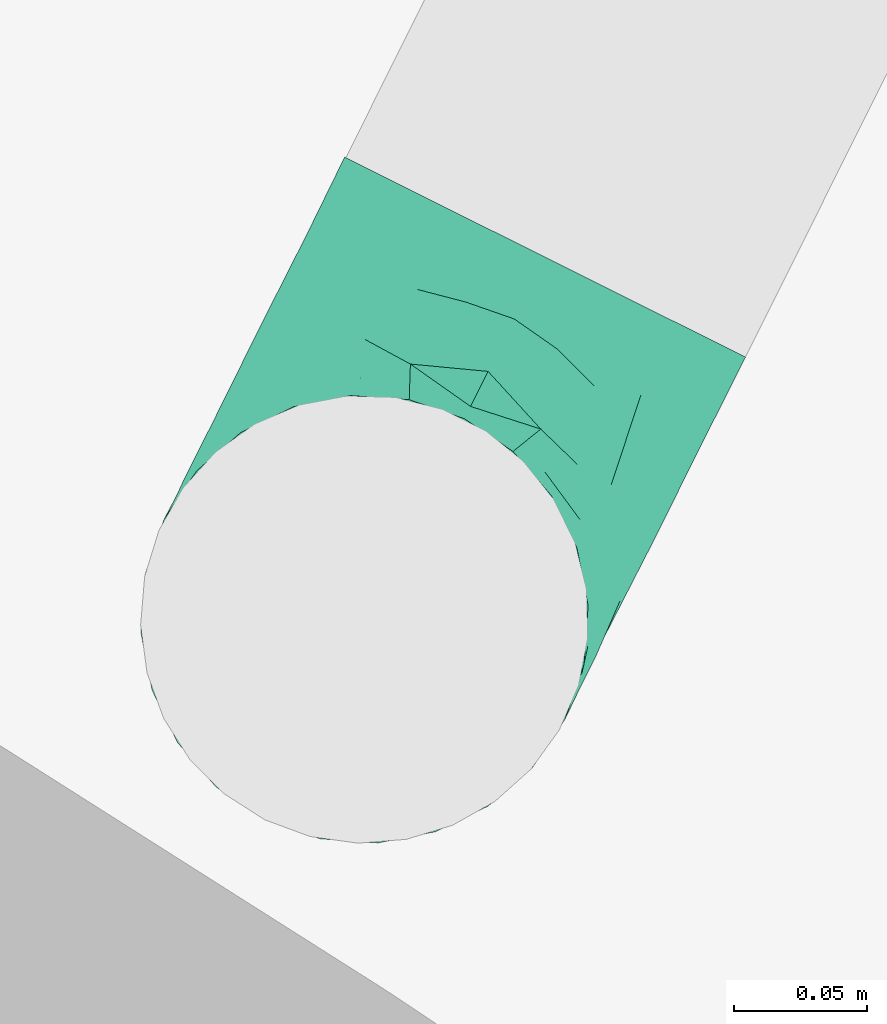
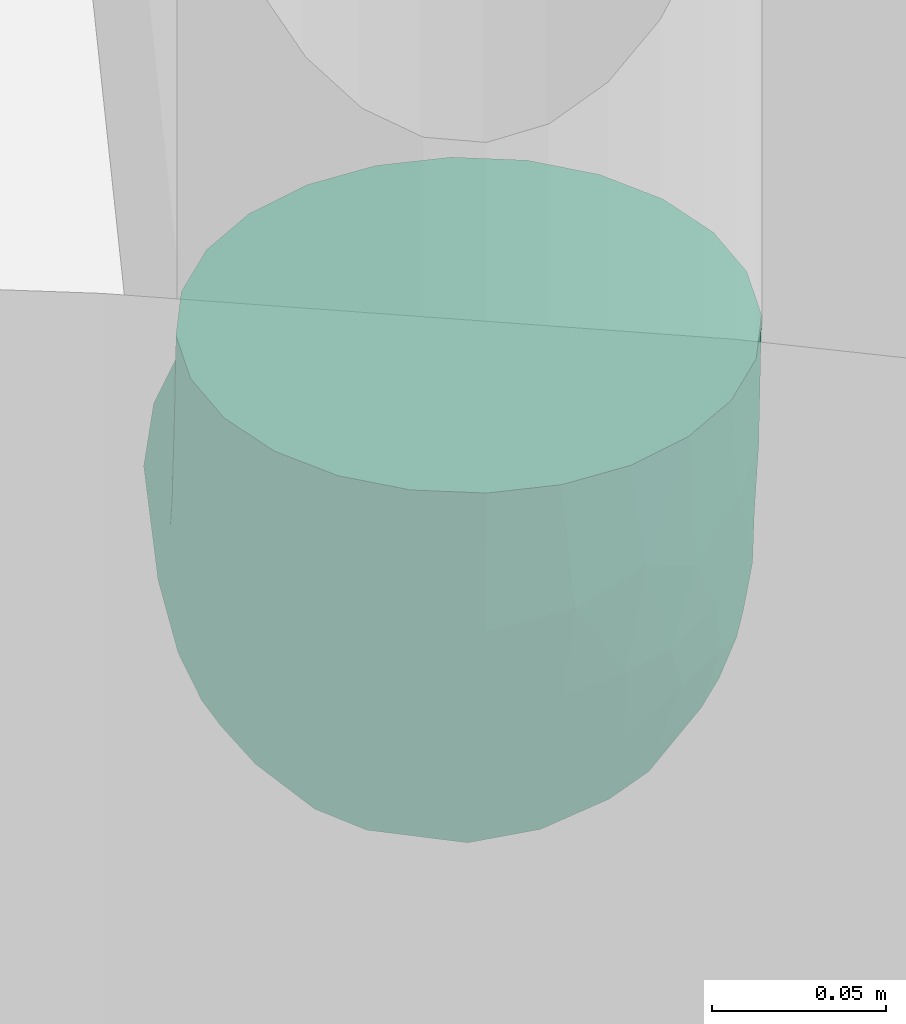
# One storey, part 24 of 47: 1 flow fitting.
"""IFC2X3 building model written with IfcOpenShell, lengths in metres."""

from ifc_helpers import new_model, entity, si_unit, converted_unit, derived_unit, direction, frame, origin, place, context, subcontext, project, spatial, faceted_brep, source, transform, mapped, type_object, type_shapes, element, save


model = new_model("IFC2X3")

# Units and contexts
model_context = context("Model", 3, precision=1e-05, world=origin(), true_north=direction((0.894925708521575, 0.446215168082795)))
context_of_model = context(None, 3, precision=1e-05, world=origin(), true_north=direction((0.894925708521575, 0.446215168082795)))
body_context = subcontext(model_context, "Body", "Model", "MODEL_VIEW")
ifc_project = project(units=[si_unit("LENGTHUNIT", "METRE"), si_unit("AREAUNIT", "SQUARE_METRE"), si_unit("VOLUMEUNIT", "CUBIC_METRE"), converted_unit("PLANEANGLEUNIT", "DEGREE", entity("IfcRatioMeasure", 0.0174532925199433), si_unit("PLANEANGLEUNIT", "RADIAN"), dimensions=[0, 0, 0, 0, 0, 0, 0]), si_unit("MASSUNIT", "GRAM", prefix="KILO"), si_unit("TIMEUNIT", "SECOND"), si_unit("FREQUENCYUNIT", "HERTZ"), si_unit("THERMODYNAMICTEMPERATUREUNIT", "DEGREE_CELSIUS"), derived_unit("THERMALTRANSMITTANCEUNIT", [(si_unit("MASSUNIT", "GRAM", prefix="KILO"), 1), (si_unit("THERMODYNAMICTEMPERATUREUNIT", "KELVIN"), -1), (si_unit("TIMEUNIT", "SECOND"), -3)]), derived_unit("VOLUMETRICFLOWRATEUNIT", [(si_unit("LENGTHUNIT", "METRE"), 3), (si_unit("TIMEUNIT", "SECOND"), -1)]), si_unit("ELECTRICCURRENTUNIT", "AMPERE"), si_unit("ELECTRICVOLTAGEUNIT", "VOLT"), si_unit("POWERUNIT", "WATT"), si_unit("FORCEUNIT", "NEWTON", prefix="KILO"), si_unit("ILLUMINANCEUNIT", "LUX"), si_unit("LUMINOUSFLUXUNIT", "LUMEN"), si_unit("LUMINOUSINTENSITYUNIT", "CANDELA"), si_unit("PRESSUREUNIT", "PASCAL")], contexts=[model_context, context_of_model])

# Site, building, storey
site_placement = place(None, frame((218.228324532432, 584.720189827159, 0.0), z_axis=(0.0, 0.0, 1.0), x_axis=(0.446215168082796, 0.894925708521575, 0.0)))
site = spatial("IfcSite", under=ifc_project, at=site_placement, Name="Default", CompositionType="ELEMENT")
building_placement = place(site_placement, origin())
building = spatial("IfcBuilding", under=site, at=building_placement, CompositionType="ELEMENT")
storey_placement = place(building_placement, frame((0.0, 0.0, 4.69)))
storey = spatial("IfcBuildingStorey", under=building, at=storey_placement, Name="1 - Piano Primo", CompositionType="ELEMENT", Elevation=4.69)

# Flow fitting
pipe_fitting_type = type_object("IfcPipeFittingType", Name="Standard", PredefinedType="NOTDEFINED")
shared_shape = source(origin(), body_context, "Body", "Brep", [
    faceted_brep([(-0.151999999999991, 0.0, -0.0841500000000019), (-0.151999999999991, -0.0217796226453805, -0.081282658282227), (-0.151999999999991, -0.0420750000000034, -0.0728760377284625), (-0.151999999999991, -0.0595030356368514, -0.05950303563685), (-0.151999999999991, -0.0728760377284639, -0.0420750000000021), (-0.151999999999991, -0.0812826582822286, -0.0217796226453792), (-0.151999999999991, -0.0841500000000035, 0.0), (-0.151999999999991, -0.0812826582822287, 0.021779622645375), (-0.151999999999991, -0.0728760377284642, 0.0420749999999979), (-0.151999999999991, -0.0595030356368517, 0.0595030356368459), (-0.151999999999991, -0.0420750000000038, 0.0728760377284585), (-0.151999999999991, -0.021779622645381, 0.0812826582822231), (-0.151999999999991, 0.0, 0.0841499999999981), (-0.151999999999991, 0.0217796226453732, 0.0812826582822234), (-0.151999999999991, 0.0420749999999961, 0.0728760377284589), (-0.151999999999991, 0.0595030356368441, 0.0595030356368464), (-0.151999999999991, 0.0728760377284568, 0.0420749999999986), (-0.151999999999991, 0.0812826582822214, 0.0217796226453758), (-0.151999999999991, 0.0841499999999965, 0.0), (-0.151999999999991, 0.0812826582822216, -0.021779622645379), (-0.151999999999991, 0.072876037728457, -0.0420750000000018), (-0.151999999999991, 0.0595030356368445, -0.0595030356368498), (-0.151999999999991, 0.0420749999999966, -0.0728760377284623), (-0.151999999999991, 0.0217796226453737, -0.0812826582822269), (-0.0217796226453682, 0.151999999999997, -0.0812826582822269), (-0.0420749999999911, 0.151999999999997, -0.0728760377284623), (-0.059503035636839, 0.151999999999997, -0.0595030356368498), (-0.0728760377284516, 0.151999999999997, -0.0420750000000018), (-0.0812826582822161, 0.151999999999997, -0.021779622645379), (-0.084149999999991, 0.151999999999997, 0.0), (-0.081282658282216, 0.151999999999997, 0.0217796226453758), (-0.0728760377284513, 0.151999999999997, 0.0420749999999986), (-0.0595030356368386, 0.151999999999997, 0.0595030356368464), (-0.0420749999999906, 0.151999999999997, 0.0728760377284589), (-0.0217796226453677, 0.151999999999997, 0.0812826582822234), (0.0, 0.151999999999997, 0.0841499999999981), (0.0217796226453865, 0.151999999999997, 0.0812826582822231), (0.0420750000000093, 0.151999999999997, 0.0728760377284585), (0.0595030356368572, 0.151999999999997, 0.0595030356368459), (0.0728760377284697, 0.151999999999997, 0.0420749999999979), (0.0812826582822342, 0.151999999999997, 0.021779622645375), (0.084150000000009, 0.151999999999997, 0.0), (0.081282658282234, 0.151999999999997, -0.0217796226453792), (0.0728760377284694, 0.151999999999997, -0.0420750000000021), (0.0595030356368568, 0.151999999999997, -0.05950303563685), (0.0420750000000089, 0.151999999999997, -0.0728760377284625), (0.021779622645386, 0.151999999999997, -0.081282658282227), (0.0, 0.151999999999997, -0.0841500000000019), (-0.112295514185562, -0.0662348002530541, 0.0469763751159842), (-0.0998944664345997, -0.0498948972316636, 0.0623523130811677), (-0.0994516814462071, -0.078229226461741, 0.0), (0.0326295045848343, 0.00476288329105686, 0.0), (0.0139051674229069, -0.0139051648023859, 0.0159460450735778), (-0.00476288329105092, -0.0326295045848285, 0.0), (-0.104326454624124, -0.0750333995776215, 0.0261468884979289), (-0.113416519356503, 0.0105478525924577, 0.0839778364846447), (-0.10345101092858, 0.0347244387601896, 0.080327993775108), (-0.131471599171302, 0.0309707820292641, 0.0789057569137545), (-0.0309203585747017, -0.0471487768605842, 0.0225668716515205), (-0.0495383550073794, -0.0607637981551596, 0.0), (-0.0683222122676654, -0.0568785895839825, 0.0418314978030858), (-0.0660333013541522, -0.0644471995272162, 0.0231811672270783), (-0.0835793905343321, 0.116982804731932, 0.0378856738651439), (-0.026569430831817, 0.0183089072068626, 0.0781043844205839), (-0.0165432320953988, 0.0456685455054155, 0.0816880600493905), (-0.0428661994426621, 0.0321386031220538, 0.0835414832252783), (0.0470025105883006, 0.0693062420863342, 0.055217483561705), (0.056878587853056, 0.0683222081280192, 0.0418314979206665), (0.0662347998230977, 0.112295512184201, 0.0469763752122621), (-0.0880808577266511, 0.123149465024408, 0.0194495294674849), (-0.115041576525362, -0.0119238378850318, 0.0826074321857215), (0.049894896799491, 0.0998944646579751, 0.062352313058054), (-0.111156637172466, -0.0327211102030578, 0.0754895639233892), (-0.0752436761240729, -0.0325343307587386, 0.0692137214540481), (-0.00888418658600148, -0.0109985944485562, 0.053550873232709), (-0.00897555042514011, 0.00897554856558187, 0.0674865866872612), (-0.0444608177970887, -0.0301022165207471, 0.0595210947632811), (-0.109349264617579, 0.0934713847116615, 0.0273546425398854), (-0.128739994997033, 0.0797549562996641, 0.0359106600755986), (-0.12603492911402, 0.0893147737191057, 0.0), (0.0471487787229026, 0.0309203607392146, 0.022566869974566), (0.0371028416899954, 0.0305253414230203, 0.0422794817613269), (-0.0347244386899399, 0.103451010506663, 0.080327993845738), (-0.0262367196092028, 0.07490520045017, 0.0840302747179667), (-0.0105478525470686, 0.113416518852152, 0.0839778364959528), (-0.119941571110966, 0.0519254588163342, 0.0698578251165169), (-0.0833454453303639, 0.0610025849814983, 0.0750769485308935), (-0.0993800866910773, 0.0670387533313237, 0.0661104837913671), (-0.0522736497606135, 0.118034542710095, 0.0700368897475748), (-0.118528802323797, 0.069574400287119, 0.055744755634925), (0.0607637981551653, 0.0495383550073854, 0.0), (0.0327211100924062, 0.111156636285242, 0.075489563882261), (-0.0767637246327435, 0.0258413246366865, 0.0839946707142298), (0.0119238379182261, 0.115041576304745, 0.0826074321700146), (-0.102216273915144, 0.0876981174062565, 0.0456699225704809), (0.0782292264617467, 0.0994516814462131, 0.0), (0.0750333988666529, 0.104326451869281, 0.0261468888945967), (0.0651289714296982, 0.0654047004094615, 0.0199129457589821), (-0.0566549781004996, 0.0566549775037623, 0.0823814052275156), (-0.0309707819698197, 0.13147159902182, 0.0789057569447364), (-0.0673555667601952, 0.101601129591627, 0.0649639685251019), (-0.0687747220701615, 0.121637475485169, 0.0553217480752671), (-0.0893147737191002, 0.126034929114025, 0.0), (-0.104022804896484, 0.104022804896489, 0.0), (-0.0580913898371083, 0.0854184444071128, 0.0756364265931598), (0.00431503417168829, 0.0425180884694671, 0.0746493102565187), (0.00308445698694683, 0.0734448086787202, 0.0812650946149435), (-0.0693062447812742, -0.0470025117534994, 0.0552174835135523), (-0.085628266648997, 0.086263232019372, 0.0604079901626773), (-0.0414671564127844, 0.0784252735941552, 0.0819258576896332), (-0.0734448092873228, -0.00308445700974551, 0.0812650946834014), (-0.0305253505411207, -0.037102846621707, 0.0422794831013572), (-0.0426179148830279, -0.0109766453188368, 0.0715577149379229), (0.0222104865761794, 0.075179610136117, 0.0748796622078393), (0.0365396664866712, 0.0751083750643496, 0.0664604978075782), (0.0166895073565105, 0.014403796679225, 0.0525934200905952), (-0.0796442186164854, 0.0464469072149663, 0.0806466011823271), (0.00908607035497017, -0.00908606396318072, 0.036524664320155), (0.0301022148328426, 0.0444608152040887, 0.0595210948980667), (-0.119427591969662, 0.0520158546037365, -0.0699061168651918), (-0.110232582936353, 0.0332348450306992, -0.0799986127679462), (0.067303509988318, 0.127444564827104, -0.0486323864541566), (-0.119776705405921, 0.00991992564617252, -0.0839129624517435), (-0.109349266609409, 0.0934713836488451, -0.0273546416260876), (-0.118520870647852, 0.080425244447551, -0.0418904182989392), (-0.0824889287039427, 0.0176322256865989, -0.0841469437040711), (-0.042237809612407, 0.0404874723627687, -0.0840312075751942), (-0.0715643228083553, 0.0462238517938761, -0.0819502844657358), (-0.0269520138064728, -0.034464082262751, -0.0426985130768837), (-0.0323682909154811, -0.0463076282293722, -0.0273014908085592), (-0.0576003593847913, -0.052357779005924, -0.0416714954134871), (-0.00991992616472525, 0.119776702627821, -0.083912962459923), (-0.0332348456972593, 0.110232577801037, -0.0799986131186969), (-0.0929808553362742, 0.0517253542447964, -0.0762272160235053), (0.00399581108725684, 0.0640144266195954, -0.079667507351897), (0.00840813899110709, 0.0328778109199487, -0.0692544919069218), (-0.0236511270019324, 0.0236511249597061, -0.0788049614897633), (0.0635649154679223, 0.0943451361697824, -0.0449449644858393), (0.0647121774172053, 0.0698052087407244, -0.0267768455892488), (0.0523577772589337, 0.0576003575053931, -0.0416714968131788), (-0.132110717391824, 0.0669080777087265, -0.0539090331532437), (-0.110166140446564, -0.0759227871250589, -0.0269132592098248), (-0.127444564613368, -0.067303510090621, -0.0486323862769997), (-0.0698052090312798, -0.0647121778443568, -0.0267768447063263), (0.00867466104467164, -0.00867466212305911, -0.037708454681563), (0.0160110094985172, 0.0156079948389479, -0.0541609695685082), (0.0347671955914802, 0.027256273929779, -0.0425577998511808), (-0.109085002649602, -0.0511074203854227, -0.0631726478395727), (0.0138015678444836, -0.0138015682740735, -0.0166872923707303), (-0.0734094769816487, 0.10741660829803, -0.0572817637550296), (-0.0938460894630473, 0.0941329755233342, -0.0467626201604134), (-0.0824977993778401, 0.119740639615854, -0.0374121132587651), (0.0203075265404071, 0.0628849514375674, -0.0729261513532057), (-0.127855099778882, -0.0335932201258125, -0.0764538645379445), (-0.111254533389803, -0.0115586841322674, -0.0825049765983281), (-0.054595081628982, -0.037464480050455, -0.0579290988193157), (-0.0943451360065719, -0.0635649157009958, -0.0449449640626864), (0.0463076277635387, 0.0323682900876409, -0.0273014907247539), (-0.0879480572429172, 0.123581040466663, -0.0192162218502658), (-0.0520158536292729, 0.119427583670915, -0.0699061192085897), (-0.0668704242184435, 0.132433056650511, -0.053865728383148), (0.0759227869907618, 0.11016614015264, -0.0269132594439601), (-0.094035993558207, 0.0671599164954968, -0.0682327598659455), (-0.0852711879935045, 0.0856897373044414, -0.0610386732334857), (-0.0723785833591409, 0.0723785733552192, -0.0743572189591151), (0.0511074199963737, 0.109085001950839, -0.0631726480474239), (0.0335932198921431, 0.127855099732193, -0.0764538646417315), (0.0115586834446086, 0.111254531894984, -0.0825049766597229), (0.0304569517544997, 0.0950501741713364, -0.0744944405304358), (-0.0587965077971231, -0.0231830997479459, -0.0701791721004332), (-0.0640144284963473, -0.0039958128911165, -0.0796675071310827), (-0.0253392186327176, -0.00591217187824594, -0.0673625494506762), (-0.0950501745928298, -0.0304569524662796, -0.0744944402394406), (0.0374644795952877, 0.0545950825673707, -0.0579290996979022), (-0.0176322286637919, 0.082488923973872, -0.0841469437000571), (-0.0469951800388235, 0.0749575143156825, -0.081286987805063), (-0.0651507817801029, 0.0957840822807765, -0.0687360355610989), (-0.0548517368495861, 0.0878796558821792, -0.0762491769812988), (-0.0117403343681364, -0.0138595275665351, -0.0531816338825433), (-0.106904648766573, 0.0736247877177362, -0.0573538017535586)], [[[0, 1, 2, 3, 4, 5, 6, 7, 8, 9, 10, 11, 12, 13, 14, 15, 16, 17, 18, 19, 20, 21, 22, 23]], [[24, 25, 26, 27, 28, 29, 30, 31, 32, 33, 34, 35, 36, 37, 38, 39, 40, 41, 42, 43, 44, 45, 46, 47]], [[9, 48, 49]], [[7, 6, 50]], [[51, 52, 53]], [[54, 8, 7]], [[50, 54, 7]], [[55, 56, 57]], [[8, 48, 9]], [[58, 59, 53]], [[60, 54, 61]], [[58, 60, 61]], [[9, 49, 10]], [[62, 31, 30]], [[63, 64, 65]], [[66, 67, 68]], [[30, 69, 62]], [[11, 70, 12]], [[71, 38, 37]], [[14, 13, 57]], [[10, 49, 72]], [[49, 73, 72]], [[74, 75, 76]], [[77, 17, 78]], [[17, 79, 18]], [[79, 17, 77]], [[80, 67, 81]], [[82, 83, 84]], [[85, 86, 87]], [[33, 32, 88]], [[85, 89, 15]], [[80, 51, 90]], [[71, 37, 91]], [[56, 55, 92]], [[93, 36, 35]], [[78, 94, 77]], [[95, 40, 96]], [[95, 96, 97]], [[83, 98, 65]], [[35, 34, 84]], [[34, 99, 84]], [[96, 40, 39]], [[71, 66, 68]], [[39, 38, 68]], [[94, 62, 77]], [[67, 80, 97]], [[100, 88, 101]], [[40, 95, 41]], [[15, 14, 85]], [[68, 96, 39]], [[56, 86, 85]], [[29, 102, 69]], [[15, 89, 16]], [[77, 69, 103]], [[78, 17, 16]], [[77, 103, 79]], [[61, 50, 59]], [[101, 88, 32]], [[69, 77, 62]], [[82, 88, 104]], [[91, 37, 36]], [[10, 72, 11]], [[64, 105, 106]], [[88, 82, 99]], [[99, 34, 33]], [[49, 48, 107]], [[48, 54, 60]], [[97, 80, 90]], [[32, 31, 101]], [[13, 12, 55]], [[108, 86, 104]], [[83, 109, 98]], [[93, 84, 106]], [[70, 55, 12]], [[110, 65, 92]], [[60, 58, 111]], [[76, 112, 73]], [[91, 113, 114]], [[75, 74, 115]], [[49, 107, 73]], [[70, 72, 110]], [[93, 91, 36]], [[106, 105, 113]], [[57, 85, 14]], [[116, 98, 86]], [[31, 62, 101]], [[108, 101, 62]], [[54, 48, 8]], [[48, 60, 107]], [[71, 68, 38]], [[96, 68, 67]], [[109, 104, 98]], [[89, 87, 108]], [[84, 93, 35]], [[93, 106, 113]], [[72, 70, 11]], [[55, 70, 110]], [[98, 116, 92]], [[106, 84, 83]], [[110, 112, 63]], [[83, 65, 64]], [[52, 58, 53]], [[111, 76, 107]], [[67, 66, 81]], [[52, 80, 117]], [[110, 92, 55]], [[98, 92, 65]], [[104, 88, 100]], [[98, 104, 86]], [[112, 76, 75]], [[110, 72, 73]], [[63, 112, 75]], [[110, 73, 112]], [[63, 75, 105]], [[110, 63, 65]], [[75, 118, 105]], [[113, 91, 93]], [[105, 118, 113]], [[118, 66, 114]], [[16, 89, 78]], [[94, 89, 108]], [[89, 94, 78]], [[62, 94, 108]], [[105, 64, 63]], [[83, 64, 106]], [[58, 117, 111]], [[74, 111, 117]], [[115, 81, 118]], [[117, 80, 81]], [[80, 52, 51]], [[58, 52, 117]], [[88, 99, 33]], [[84, 99, 82]], [[55, 57, 13]], [[85, 57, 56]], [[29, 69, 30]], [[69, 102, 103]], [[111, 107, 60]], [[73, 107, 76]], [[111, 74, 76]], [[117, 81, 115]], [[75, 115, 118]], [[117, 115, 74]], [[114, 66, 71]], [[81, 66, 118]], [[91, 114, 71]], [[118, 114, 113]], [[101, 108, 100]], [[104, 100, 108]], [[86, 56, 116]], [[92, 116, 56]], [[85, 87, 89]], [[86, 108, 87]], [[83, 82, 109]], [[104, 109, 82]], [[50, 61, 54]], [[59, 58, 61]], [[95, 97, 90]], [[67, 97, 96]], [[22, 119, 120]], [[121, 44, 43]], [[0, 23, 122]], [[19, 123, 124]], [[122, 120, 125]], [[126, 125, 127]], [[18, 79, 19]], [[128, 129, 130]], [[19, 79, 123]], [[24, 131, 132]], [[119, 133, 120]], [[134, 135, 136]], [[137, 138, 139]], [[20, 140, 21]], [[141, 4, 142]], [[143, 50, 141]], [[50, 6, 5]], [[144, 145, 146]], [[147, 3, 2]], [[129, 143, 130]], [[129, 144, 148]], [[149, 150, 151]], [[135, 134, 152]], [[141, 5, 4]], [[2, 153, 147]], [[154, 1, 0]], [[155, 156, 147]], [[2, 1, 153]], [[157, 90, 51]], [[123, 150, 124]], [[103, 123, 79]], [[156, 143, 141]], [[151, 158, 28]], [[25, 132, 159]], [[28, 158, 29]], [[27, 160, 151]], [[43, 42, 161]], [[27, 26, 160]], [[162, 163, 164]], [[45, 44, 165]], [[166, 167, 46]], [[165, 168, 166]], [[169, 170, 171]], [[131, 24, 47]], [[51, 148, 157]], [[26, 25, 159]], [[125, 120, 127]], [[46, 45, 166]], [[157, 139, 138]], [[53, 59, 129]], [[24, 132, 25]], [[3, 142, 4]], [[148, 51, 53]], [[154, 172, 153]], [[168, 165, 173]], [[28, 27, 151]], [[41, 95, 42]], [[172, 154, 170]], [[120, 133, 127]], [[161, 137, 121]], [[46, 167, 47]], [[167, 134, 174]], [[135, 171, 136]], [[120, 23, 22]], [[164, 175, 127]], [[102, 158, 103]], [[159, 176, 149]], [[22, 21, 119]], [[138, 137, 161]], [[149, 163, 150]], [[158, 102, 29]], [[121, 165, 44]], [[173, 165, 137]], [[134, 167, 168]], [[131, 167, 174]], [[152, 173, 135]], [[134, 136, 126]], [[42, 95, 161]], [[138, 95, 90]], [[155, 147, 172]], [[142, 147, 156]], [[122, 154, 0]], [[125, 126, 170]], [[125, 170, 154]], [[170, 136, 171]], [[130, 143, 156]], [[50, 5, 141]], [[140, 119, 21]], [[133, 162, 164]], [[175, 164, 177]], [[160, 159, 149]], [[173, 145, 135]], [[145, 178, 171]], [[171, 135, 145]], [[171, 155, 169]], [[120, 122, 23]], [[154, 122, 125]], [[167, 131, 47]], [[132, 131, 174]], [[95, 138, 161]], [[90, 157, 138]], [[129, 59, 143]], [[50, 143, 59]], [[177, 164, 176]], [[126, 136, 170]], [[175, 126, 127]], [[134, 126, 174]], [[132, 174, 175]], [[126, 175, 174]], [[173, 139, 146]], [[145, 144, 178]], [[128, 144, 129]], [[155, 171, 178]], [[146, 139, 157]], [[173, 137, 139]], [[144, 146, 157]], [[173, 146, 145]], [[156, 155, 130]], [[128, 155, 178]], [[155, 128, 130]], [[144, 128, 178]], [[124, 150, 179]], [[123, 151, 150]], [[140, 124, 179]], [[19, 124, 20]], [[151, 123, 158]], [[103, 158, 123]], [[162, 119, 179]], [[127, 133, 164]], [[119, 162, 133]], [[163, 162, 179]], [[150, 163, 179]], [[163, 149, 176]], [[129, 148, 53]], [[157, 148, 144]], [[124, 140, 20]], [[119, 140, 179]], [[159, 160, 26]], [[151, 160, 149]], [[165, 166, 45]], [[167, 166, 168]], [[161, 121, 43]], [[165, 121, 137]], [[154, 153, 1]], [[147, 153, 172]], [[147, 142, 3]], [[141, 142, 156]], [[159, 132, 177]], [[163, 176, 164]], [[159, 177, 176]], [[132, 175, 177]], [[134, 168, 152]], [[173, 152, 168]], [[155, 172, 169]], [[170, 169, 172]]]),
])
type_shapes(pipe_fitting_type, [shared_shape])
flow_fitting_placement = place(storey_placement, frame((-68.5375871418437, -4.70107899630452, 2.96000000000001), z_axis=(0.0, -1.0, 0.0), x_axis=(0.0, 0.0, -1.0)))
element("IfcFlowFitting", 1, at=flow_fitting_placement, inside=storey, type_object=pipe_fitting_type, Name="M_Gomito - Saldato - Generico:Standard", ObjectType="Standard", context=body_context, shape_type="MappedRepresentation", body=[
    mapped(shared_shape, transform((0.0, 0.0, 0.0), scale=1.0)),
])

save(model, "model.ifc")
